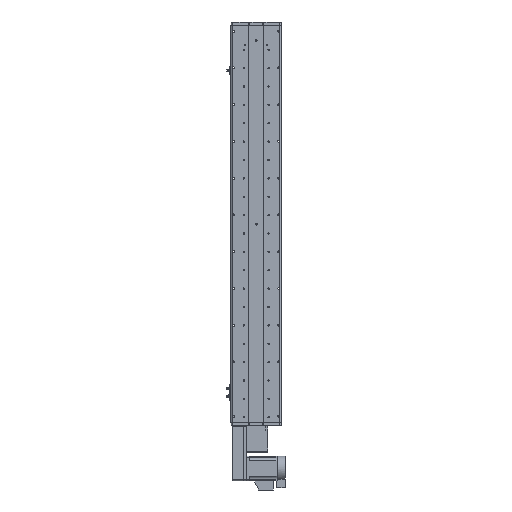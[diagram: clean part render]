
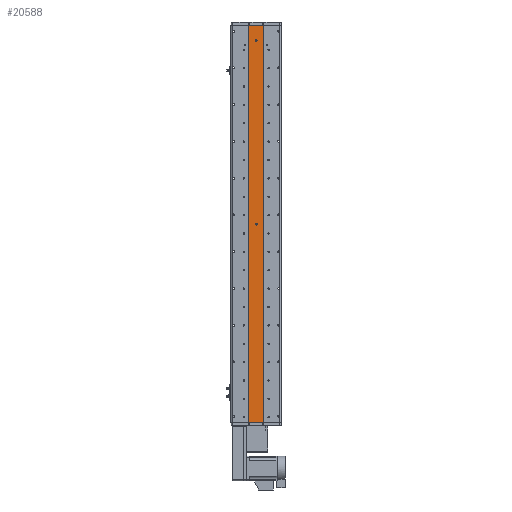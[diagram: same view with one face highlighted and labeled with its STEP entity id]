
A CAD part, front view. The second image highlights one B-rep face of the part: STEP entity #20588.
In plain terms, the highlighted planar face has unit normal (0, -1, 0).
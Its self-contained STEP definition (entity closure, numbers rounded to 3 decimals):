
#99 = LINE ( 'NONE', #44248, #37431 ) ;
#843 = AXIS2_PLACEMENT_3D ( 'NONE', #27533, #62996, #32662 ) ;
#2390 = LINE ( 'NONE', #33374, #41329 ) ;
#3925 = CARTESIAN_POINT ( 'NONE',  ( -25., 1., -648.5 ) ) ;
#5562 = EDGE_CURVE ( 'NONE', #15165, #24555, #15836, .T. ) ;
#5686 = ORIENTED_EDGE ( 'NONE', *, *, #51403, .F. ) ;
#5931 = PLANE ( 'NONE',  #18031 ) ;
#6134 = DIRECTION ( 'NONE',  ( 0., -1., 0. ) ) ;
#6600 = ORIENTED_EDGE ( 'NONE', *, *, #48228, .F. ) ;
#6677 = VECTOR ( 'NONE', #41274, 1000. ) ;
#8952 = EDGE_CURVE ( 'NONE', #31677, #49490, #12207, .T. ) ;
#9383 = ORIENTED_EDGE ( 'NONE', *, *, #15341, .F. ) ;
#10482 = EDGE_LOOP ( 'NONE', ( #6600, #9383 ) ) ;
#11124 = CARTESIAN_POINT ( 'NONE',  ( 0., 1., 598.5 ) ) ;
#11316 = EDGE_LOOP ( 'NONE', ( #26825, #47811 ) ) ;
#12207 = LINE ( 'NONE', #46344, #6677 ) ;
#12624 = VECTOR ( 'NONE', #31094, 1000. ) ;
#13495 = DIRECTION ( 'NONE',  ( 0., -1., 0. ) ) ;
#15165 = VERTEX_POINT ( 'NONE', #46987 ) ;
#15341 = EDGE_CURVE ( 'NONE', #33166, #23512, #33223, .T. ) ;
#15684 = FACE_BOUND ( 'NONE', #11316, .T. ) ;
#15836 = CIRCLE ( 'NONE', #843, 3. ) ;
#15924 = CIRCLE ( 'NONE', #37203, 3. ) ;
#16250 = DIRECTION ( 'NONE',  ( 0., 0., -1. ) ) ;
#17086 = CIRCLE ( 'NONE', #64258, 3. ) ;
#17501 = EDGE_LOOP ( 'NONE', ( #55450, #33010, #5686, #64507 ) ) ;
#17578 = VERTEX_POINT ( 'NONE', #20600 ) ;
#17904 = CARTESIAN_POINT ( 'NONE',  ( 0., 1., 601.5 ) ) ;
#18031 = AXIS2_PLACEMENT_3D ( 'NONE', #46503, #51621, #21259 ) ;
#18070 = DIRECTION ( 'NONE',  ( 0., 0., -1. ) ) ;
#20588 = ADVANCED_FACE ( 'NONE', ( #15684, #54573, #29214 ), #5931, .F. ) ;
#20600 = CARTESIAN_POINT ( 'NONE',  ( -25., 1., 648.5 ) ) ;
#21259 = DIRECTION ( 'NONE',  ( 0., 0., 1. ) ) ;
#23512 = VERTEX_POINT ( 'NONE', #44803 ) ;
#24555 = VERTEX_POINT ( 'NONE', #62089 ) ;
#26168 = CARTESIAN_POINT ( 'NONE',  ( 25., 1., 648.5 ) ) ;
#26825 = ORIENTED_EDGE ( 'NONE', *, *, #5562, .F. ) ;
#27533 = CARTESIAN_POINT ( 'NONE',  ( 0., 1., -1.5 ) ) ;
#29214 = FACE_OUTER_BOUND ( 'NONE', #17501, .T. ) ;
#31094 = DIRECTION ( 'NONE',  ( 0., 0., -1. ) ) ;
#31677 = VERTEX_POINT ( 'NONE', #3925 ) ;
#32662 = DIRECTION ( 'NONE',  ( 0., 0., -1. ) ) ;
#33010 = ORIENTED_EDGE ( 'NONE', *, *, #52228, .F. ) ;
#33166 = VERTEX_POINT ( 'NONE', #17904 ) ;
#33223 = CIRCLE ( 'NONE', #52810, 3. ) ;
#33374 = CARTESIAN_POINT ( 'NONE',  ( -25., 1., 648.5 ) ) ;
#36549 = CARTESIAN_POINT ( 'NONE',  ( 0., 1., -1.5 ) ) ;
#37203 = AXIS2_PLACEMENT_3D ( 'NONE', #11124, #46604, #16250 ) ;
#37431 = VECTOR ( 'NONE', #54219, 1000. ) ;
#39427 = EDGE_CURVE ( 'NONE', #24555, #15165, #17086, .T. ) ;
#41274 = DIRECTION ( 'NONE',  ( 1., 0., 0. ) ) ;
#41329 = VECTOR ( 'NONE', #18070, 1000. ) ;
#41660 = DIRECTION ( 'NONE',  ( 0., 0., -1. ) ) ;
#43877 = CARTESIAN_POINT ( 'NONE',  ( 0., 1., 598.5 ) ) ;
#44248 = CARTESIAN_POINT ( 'NONE',  ( 25., 1., 648.5 ) ) ;
#44803 = CARTESIAN_POINT ( 'NONE',  ( 0., 1., 595.5 ) ) ;
#46344 = CARTESIAN_POINT ( 'NONE',  ( 25., 1., -648.5 ) ) ;
#46503 = CARTESIAN_POINT ( 'NONE',  ( 25., 1., 648.5 ) ) ;
#46604 = DIRECTION ( 'NONE',  ( 0., -1., 0. ) ) ;
#46987 = CARTESIAN_POINT ( 'NONE',  ( 0., 1., -4.5 ) ) ;
#47811 = ORIENTED_EDGE ( 'NONE', *, *, #39427, .F. ) ;
#48228 = EDGE_CURVE ( 'NONE', #23512, #33166, #15924, .T. ) ;
#48943 = DIRECTION ( 'NONE',  ( 0., 0., -1. ) ) ;
#49490 = VERTEX_POINT ( 'NONE', #50099 ) ;
#50099 = CARTESIAN_POINT ( 'NONE',  ( 25., 1., -648.5 ) ) ;
#51403 = EDGE_CURVE ( 'NONE', #17578, #56998, #99, .T. ) ;
#51520 = LINE ( 'NONE', #26168, #12624 ) ;
#51621 = DIRECTION ( 'NONE',  ( 0., 1., 0. ) ) ;
#52228 = EDGE_CURVE ( 'NONE', #56998, #49490, #51520, .T. ) ;
#52810 = AXIS2_PLACEMENT_3D ( 'NONE', #43877, #13495, #48943 ) ;
#54219 = DIRECTION ( 'NONE',  ( 1., 0., 0. ) ) ;
#54573 = FACE_BOUND ( 'NONE', #10482, .T. ) ;
#55450 = ORIENTED_EDGE ( 'NONE', *, *, #8952, .T. ) ;
#56998 = VERTEX_POINT ( 'NONE', #58397 ) ;
#58397 = CARTESIAN_POINT ( 'NONE',  ( 25., 1., 648.5 ) ) ;
#59153 = EDGE_CURVE ( 'NONE', #17578, #31677, #2390, .T. ) ;
#62089 = CARTESIAN_POINT ( 'NONE',  ( 0., 1., 1.5 ) ) ;
#62996 = DIRECTION ( 'NONE',  ( 0., -1., 0. ) ) ;
#64258 = AXIS2_PLACEMENT_3D ( 'NONE', #36549, #6134, #41660 ) ;
#64507 = ORIENTED_EDGE ( 'NONE', *, *, #59153, .T. ) ;
